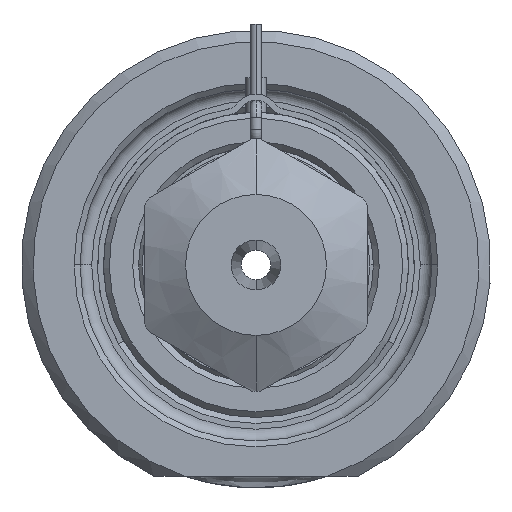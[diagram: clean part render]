
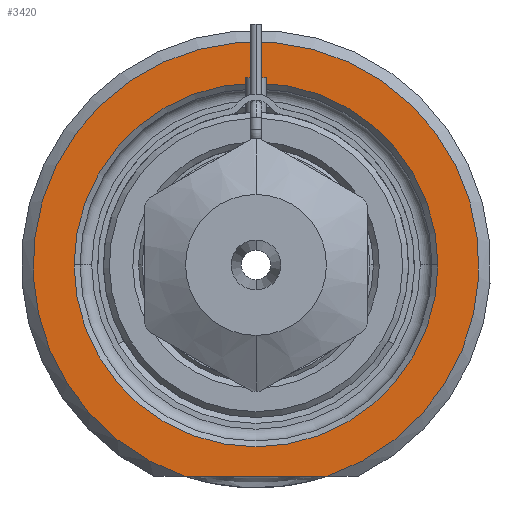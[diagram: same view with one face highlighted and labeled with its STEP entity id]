
A CAD part, front view. The second image highlights one B-rep face of the part: STEP entity #3420.
In plain terms, the highlighted planar face has unit normal (0, -1, 0).
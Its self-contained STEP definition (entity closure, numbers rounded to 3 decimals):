
#1=DIRECTION('',(1.,0.,0.));
#2=VECTOR('',#1,12.166);
#3=CARTESIAN_POINT('',(-6.083,0.,-18.));
#4=LINE('',#3,#2);
#5=CARTESIAN_POINT('',(0.,0.,0.));
#6=DIRECTION('',(0.,1.,0.));
#7=DIRECTION('',(-1.,0.,0.));
#8=AXIS2_PLACEMENT_3D('',#5,#6,#7);
#10=CARTESIAN_POINT('',(0.,0.,0.));
#11=DIRECTION('',(0.,1.,0.));
#12=DIRECTION('',(1.,0.,0.));
#13=AXIS2_PLACEMENT_3D('',#10,#11,#12);
#264=CARTESIAN_POINT('',(0.,0.,0.));
#265=DIRECTION('',(0.,-1.,0.));
#266=DIRECTION('',(0.32,0.,-0.947));
#267=AXIS2_PLACEMENT_3D('',#264,#265,#266);
#2863=CARTESIAN_POINT('',(-15.5,0.,0.));
#2864=CARTESIAN_POINT('',(15.5,0.,0.));
#2865=VERTEX_POINT('',#2863);
#2866=VERTEX_POINT('',#2864);
#2921=CARTESIAN_POINT('',(-6.083,0.,-18.));
#2922=CARTESIAN_POINT('',(6.083,0.,-18.));
#2923=VERTEX_POINT('',#2921);
#2924=VERTEX_POINT('',#2922);
#3403=CARTESIAN_POINT('',(0.,0.,0.));
#3404=DIRECTION('',(0.,-1.,0.));
#3405=DIRECTION('',(1.,0.,0.));
#3406=AXIS2_PLACEMENT_3D('',#3403,#3404,#3405);
#3407=PLANE('',#3406);
#3409=ORIENTED_EDGE('',*,*,#3408,.F.);
#3411=ORIENTED_EDGE('',*,*,#3410,.F.);
#3412=EDGE_LOOP('',(#3409,#3411));
#3413=FACE_OUTER_BOUND('',#3412,.F.);
#3415=ORIENTED_EDGE('',*,*,#3414,.F.);
#3417=ORIENTED_EDGE('',*,*,#3416,.F.);
#3418=EDGE_LOOP('',(#3415,#3417));
#3419=FACE_BOUND('',#3418,.F.);
#3420=ADVANCED_FACE('',(#3413,#3419),#3407,.T.);
#9=CIRCLE('',#8,15.5);
#14=CIRCLE('',#13,15.5);
#268=CIRCLE('',#267,19.);
#3408=EDGE_CURVE('',#2923,#2924,#4,.T.);
#3410=EDGE_CURVE('',#2924,#2923,#268,.T.);
#3414=EDGE_CURVE('',#2865,#2866,#9,.T.);
#3416=EDGE_CURVE('',#2866,#2865,#14,.T.);
